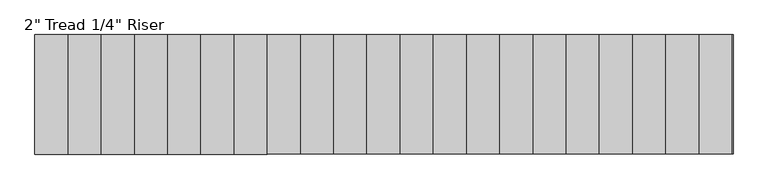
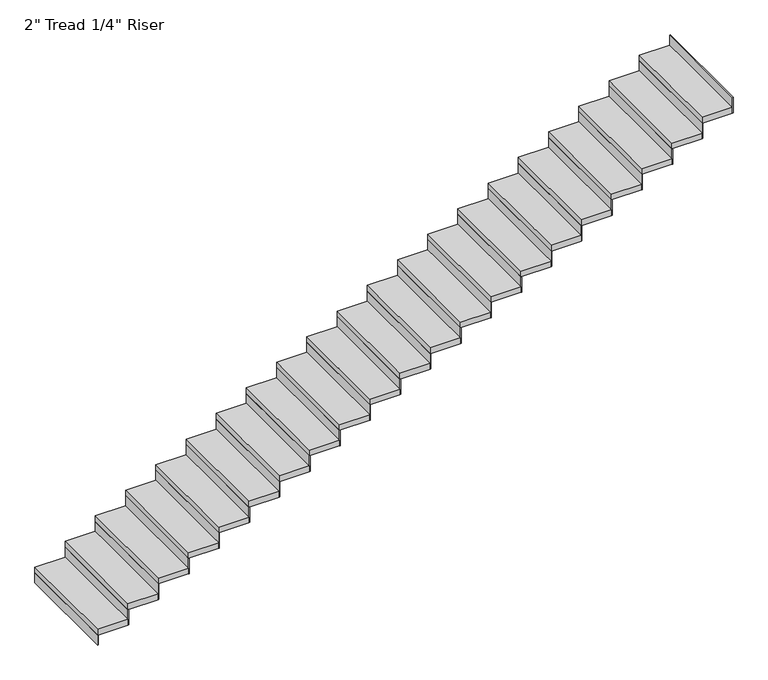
"""IFC4 building model written with IfcOpenShell, lengths in millimetres: stair flight geometry."""

from ifc_helpers import new_model, si_unit, frame, origin, origin_with_axes, place, context, project, spatial, polyline, outline, extrude, source, transform, mapped, element, save


def stair_flight_ff1bd8d3(model_context):
    return source(origin(), model_context, "Body", "SweptSolid", [
        extrude(outline(polyline([(60465.2405484, -18868.6990002), (60458.8905484, -18868.6990002), (60458.8905484, -17954.2990002), (60465.2405484, -17954.2990002), (60465.2405484, -18868.6990002)])), origin_with_axes(), (0.0, 0.0, 1.0), 87.7454545),
        extrude(outline(polyline([(60712.8905484, -17954.2990002), (60712.8905484, -18868.6990002), (60458.8905484, -18868.6990002), (60458.8905484, -17954.2990002), (60712.8905484, -17954.2990002)])), frame((0.0, 0.0, 87.7454545), z_axis=(0.0, 0.0, 1.0), x_axis=(1.0, 0.0, 0.0)), (0.0, 0.0, 1.0), 50.8),
        extrude(outline(polyline([(60719.2405484, -18868.6990002), (60712.8905484, -18868.6990002), (60712.8905484, -17954.2990002), (60719.2405484, -17954.2990002), (60719.2405484, -18868.6990002)])), frame((0.0, 0.0, 87.7454545), z_axis=(0.0, 0.0, 1.0), x_axis=(1.0, 0.0, 0.0)), (0.0, 0.0, 1.0), 138.5454545),
        extrude(outline(polyline([(60966.8905484, -17954.2990002), (60966.8905484, -18868.6990002), (60712.8905484, -18868.6990002), (60712.8905484, -17954.2990002), (60966.8905484, -17954.2990002)])), frame((0.0, 0.0, 226.2909091), z_axis=(0.0, 0.0, 1.0), x_axis=(1.0, 0.0, 0.0)), (0.0, 0.0, 1.0), 50.8),
        extrude(outline(polyline([(60973.2405484, -18868.6990002), (60966.8905484, -18868.6990002), (60966.8905484, -17954.2990002), (60973.2405484, -17954.2990002), (60973.2405484, -18868.6990002)])), frame((0.0, 0.0, 226.2909091), z_axis=(0.0, 0.0, 1.0), x_axis=(1.0, 0.0, 0.0)), (0.0, 0.0, 1.0), 138.5454545),
        extrude(outline(polyline([(61220.8905484, -17954.2990002), (61220.8905484, -18868.6990002), (60966.8905484, -18868.6990002), (60966.8905484, -17954.2990002), (61220.8905484, -17954.2990002)])), frame((0.0, 0.0, 364.8363636), z_axis=(0.0, 0.0, 1.0), x_axis=(1.0, 0.0, 0.0)), (0.0, 0.0, 1.0), 50.8),
        extrude(outline(polyline([(61227.2405484, -18868.6990002), (61220.8905484, -18868.6990002), (61220.8905484, -17954.2990002), (61227.2405484, -17954.2990002), (61227.2405484, -18868.6990002)])), frame((0.0, 0.0, 364.8363636), z_axis=(0.0, 0.0, 1.0), x_axis=(1.0, 0.0, 0.0)), (0.0, 0.0, 1.0), 138.5454545),
        extrude(outline(polyline([(61474.8905484, -17954.2990002), (61474.8905484, -18868.6990002), (61220.8905484, -18868.6990002), (61220.8905484, -17954.2990002), (61474.8905484, -17954.2990002)])), frame((0.0, 0.0, 503.3818182), z_axis=(0.0, 0.0, 1.0), x_axis=(1.0, 0.0, 0.0)), (0.0, 0.0, 1.0), 50.8),
        extrude(outline(polyline([(61481.2405484, -18868.6990002), (61474.8905484, -18868.6990002), (61474.8905484, -17954.2990002), (61481.2405484, -17954.2990002), (61481.2405484, -18868.6990002)])), frame((0.0, 0.0, 503.3818182), z_axis=(0.0, 0.0, 1.0), x_axis=(1.0, 0.0, 0.0)), (0.0, 0.0, 1.0), 138.5454545),
        extrude(outline(polyline([(61728.8905484, -17954.2990002), (61728.8905484, -18868.6990002), (61474.8905484, -18868.6990002), (61474.8905484, -17954.2990002), (61728.8905484, -17954.2990002)])), frame((0.0, 0.0, 641.9272727), z_axis=(0.0, 0.0, 1.0), x_axis=(1.0, 0.0, 0.0)), (0.0, 0.0, 1.0), 50.8),
        extrude(outline(polyline([(61735.2405484, -18868.6990002), (61728.8905484, -18868.6990002), (61728.8905484, -17954.2990002), (61735.2405484, -17954.2990002), (61735.2405484, -18868.6990002)])), frame((0.0, 0.0, 641.9272727), z_axis=(0.0, 0.0, 1.0), x_axis=(1.0, 0.0, 0.0)), (0.0, 0.0, 1.0), 138.5454545),
        extrude(outline(polyline([(61982.8905484, -17954.2990002), (61982.8905484, -18868.6990002), (61728.8905484, -18868.6990002), (61728.8905484, -17954.2990002), (61982.8905484, -17954.2990002)])), frame((0.0, 0.0, 780.4727273), z_axis=(0.0, 0.0, 1.0), x_axis=(1.0, 0.0, 0.0)), (0.0, 0.0, 1.0), 50.8),
        extrude(outline(polyline([(61989.2405484, -18868.6990002), (61982.8905484, -18868.6990002), (61982.8905484, -17954.2990002), (61989.2405484, -17954.2990002), (61989.2405484, -18868.6990002)])), frame((0.0, 0.0, 780.4727273), z_axis=(0.0, 0.0, 1.0), x_axis=(1.0, 0.0, 0.0)), (0.0, 0.0, 1.0), 138.5454545),
        extrude(outline(polyline([(62236.8905484, -17954.2990002), (62236.8905484, -18868.6990002), (61982.8905484, -18868.6990002), (61982.8905484, -17954.2990002), (62236.8905484, -17954.2990002)])), frame((0.0, 0.0, 919.0181818), z_axis=(0.0, 0.0, 1.0), x_axis=(1.0, 0.0, 0.0)), (0.0, 0.0, 1.0), 50.8),
        extrude(outline(polyline([(62243.2405484, -18868.6990002), (62236.8905484, -18868.6990002), (62236.8905484, -17954.2990002), (62243.2405484, -17954.2990002), (62243.2405484, -18868.6990002)])), frame((0.0, 0.0, 919.0181818), z_axis=(0.0, 0.0, 1.0), x_axis=(1.0, 0.0, 0.0)), (0.0, 0.0, 1.0), 138.5454545),
        extrude(outline(polyline([(62490.8905484, -17954.2990002), (62490.8905484, -18868.6990002), (62236.8905484, -18868.6990002), (62236.8905484, -17954.2990002), (62490.8905484, -17954.2990002)])), frame((0.0, 0.0, 1057.5636364), z_axis=(0.0, 0.0, 1.0), x_axis=(1.0, 0.0, 0.0)), (0.0, 0.0, 1.0), 50.8),
        extrude(outline(polyline([(62497.2405484, -18868.6990002), (62490.8905484, -18868.6990002), (62490.8905484, -17954.2990002), (62497.2405484, -17954.2990002), (62497.2405484, -18868.6990002)])), frame((0.0, 0.0, 1057.5636364), z_axis=(0.0, 0.0, 1.0), x_axis=(1.0, 0.0, 0.0)), (0.0, 0.0, 1.0), 138.5454545),
        extrude(outline(polyline([(62744.8905484, -17954.2990002), (62744.8905484, -18868.6990002), (62490.8905484, -18868.6990002), (62490.8905484, -17954.2990002), (62744.8905484, -17954.2990002)])), frame((0.0, 0.0, 1196.1090909), z_axis=(0.0, 0.0, 1.0), x_axis=(1.0, 0.0, 0.0)), (0.0, 0.0, 1.0), 50.8),
        extrude(outline(polyline([(62751.2405484, -18868.6990002), (62744.8905484, -18868.6990002), (62744.8905484, -17954.2990002), (62751.2405484, -17954.2990002), (62751.2405484, -18868.6990002)])), frame((0.0, 0.0, 1196.1090909), z_axis=(0.0, 0.0, 1.0), x_axis=(1.0, 0.0, 0.0)), (0.0, 0.0, 1.0), 138.5454545),
        extrude(outline(polyline([(62998.8905484, -17954.2990002), (62998.8905484, -18868.6990002), (62744.8905484, -18868.6990002), (62744.8905484, -17954.2990002), (62998.8905484, -17954.2990002)])), frame((0.0, 0.0, 1334.6545455), z_axis=(0.0, 0.0, 1.0), x_axis=(1.0, 0.0, 0.0)), (0.0, 0.0, 1.0), 50.8),
        extrude(outline(polyline([(63005.2405484, -18868.6990002), (62998.8905484, -18868.6990002), (62998.8905484, -17954.2990002), (63005.2405484, -17954.2990002), (63005.2405484, -18868.6990002)])), frame((0.0, 0.0, 1334.6545455), z_axis=(0.0, 0.0, 1.0), x_axis=(1.0, 0.0, 0.0)), (0.0, 0.0, 1.0), 138.5454545),
        extrude(outline(polyline([(63252.8905484, -17954.2990002), (63252.8905484, -18868.6990002), (62998.8905484, -18868.6990002), (62998.8905484, -17954.2990002), (63252.8905484, -17954.2990002)])), frame((0.0, 0.0, 1473.2), z_axis=(0.0, 0.0, 1.0), x_axis=(1.0, 0.0, 0.0)), (0.0, 0.0, 1.0), 50.8),
        extrude(outline(polyline([(63259.2405484, -18868.6990002), (63252.8905484, -18868.6990002), (63252.8905484, -17954.2990002), (63259.2405484, -17954.2990002), (63259.2405484, -18868.6990002)])), frame((0.0, 0.0, 1473.2), z_axis=(0.0, 0.0, 1.0), x_axis=(1.0, 0.0, 0.0)), (0.0, 0.0, 1.0), 138.5454545),
        extrude(outline(polyline([(63506.8905484, -17954.2990002), (63506.8905484, -18868.6990002), (63252.8905484, -18868.6990002), (63252.8905484, -17954.2990002), (63506.8905484, -17954.2990002)])), frame((0.0, 0.0, 1611.7454545), z_axis=(0.0, 0.0, 1.0), x_axis=(1.0, 0.0, 0.0)), (0.0, 0.0, 1.0), 50.8),
        extrude(outline(polyline([(63513.2405484, -18868.6990002), (63506.8905484, -18868.6990002), (63506.8905484, -17954.2990002), (63513.2405484, -17954.2990002), (63513.2405484, -18868.6990002)])), frame((0.0, 0.0, 1611.7454545), z_axis=(0.0, 0.0, 1.0), x_axis=(1.0, 0.0, 0.0)), (0.0, 0.0, 1.0), 138.5454545),
        extrude(outline(polyline([(63760.8905484, -17954.2990002), (63760.8905484, -18868.6990002), (63506.8905484, -18868.6990002), (63506.8905484, -17954.2990002), (63760.8905484, -17954.2990002)])), frame((0.0, 0.0, 1750.2909091), z_axis=(0.0, 0.0, 1.0), x_axis=(1.0, 0.0, 0.0)), (0.0, 0.0, 1.0), 50.8),
        extrude(outline(polyline([(63767.2405484, -18868.6990002), (63760.8905484, -18868.6990002), (63760.8905484, -17954.2990002), (63767.2405484, -17954.2990002), (63767.2405484, -18868.6990002)])), frame((0.0, 0.0, 1750.2909091), z_axis=(0.0, 0.0, 1.0), x_axis=(1.0, 0.0, 0.0)), (0.0, 0.0, 1.0), 138.5454545),
        extrude(outline(polyline([(64014.8905484, -17954.2990002), (64014.8905484, -18868.6990002), (63760.8905484, -18868.6990002), (63760.8905484, -17954.2990002), (64014.8905484, -17954.2990002)])), frame((0.0, 0.0, 1888.8363636), z_axis=(0.0, 0.0, 1.0), x_axis=(1.0, 0.0, 0.0)), (0.0, 0.0, 1.0), 50.8),
        extrude(outline(polyline([(64021.2405484, -18868.6990002), (64014.8905484, -18868.6990002), (64014.8905484, -17954.2990002), (64021.2405484, -17954.2990002), (64021.2405484, -18868.6990002)])), frame((0.0, 0.0, 1888.8363636), z_axis=(0.0, 0.0, 1.0), x_axis=(1.0, 0.0, 0.0)), (0.0, 0.0, 1.0), 138.5454545),
        extrude(outline(polyline([(64268.8905484, -17954.2990002), (64268.8905484, -18868.6990002), (64014.8905484, -18868.6990002), (64014.8905484, -17954.2990002), (64268.8905484, -17954.2990002)])), frame((0.0, 0.0, 2027.3818182), z_axis=(0.0, 0.0, 1.0), x_axis=(1.0, 0.0, 0.0)), (0.0, 0.0, 1.0), 50.8),
        extrude(outline(polyline([(64275.2405484, -18868.6990002), (64268.8905484, -18868.6990002), (64268.8905484, -17954.2990002), (64275.2405484, -17954.2990002), (64275.2405484, -18868.6990002)])), frame((0.0, 0.0, 2027.3818182), z_axis=(0.0, 0.0, 1.0), x_axis=(1.0, 0.0, 0.0)), (0.0, 0.0, 1.0), 138.5454545),
        extrude(outline(polyline([(64522.8905484, -17954.2990002), (64522.8905484, -18868.6990002), (64268.8905484, -18868.6990002), (64268.8905484, -17954.2990002), (64522.8905484, -17954.2990002)])), frame((0.0, 0.0, 2165.9272727), z_axis=(0.0, 0.0, 1.0), x_axis=(1.0, 0.0, 0.0)), (0.0, 0.0, 1.0), 50.8),
        extrude(outline(polyline([(64529.2405484, -18868.6990002), (64522.8905484, -18868.6990002), (64522.8905484, -17954.2990002), (64529.2405484, -17954.2990002), (64529.2405484, -18868.6990002)])), frame((0.0, 0.0, 2165.9272727), z_axis=(0.0, 0.0, 1.0), x_axis=(1.0, 0.0, 0.0)), (0.0, 0.0, 1.0), 138.5454545),
        extrude(outline(polyline([(64776.8905484, -17954.2990002), (64776.8905484, -18868.6990002), (64522.8905484, -18868.6990002), (64522.8905484, -17954.2990002), (64776.8905484, -17954.2990002)])), frame((0.0, 0.0, 2304.4727273), z_axis=(0.0, 0.0, 1.0), x_axis=(1.0, 0.0, 0.0)), (0.0, 0.0, 1.0), 50.8),
        extrude(outline(polyline([(64783.2405484, -18868.6990002), (64776.8905484, -18868.6990002), (64776.8905484, -17954.2990002), (64783.2405484, -17954.2990002), (64783.2405484, -18868.6990002)])), frame((0.0, 0.0, 2304.4727273), z_axis=(0.0, 0.0, 1.0), x_axis=(1.0, 0.0, 0.0)), (0.0, 0.0, 1.0), 138.5454545),
        extrude(outline(polyline([(65030.8905484, -17954.2990002), (65030.8905484, -18868.6990002), (64776.8905484, -18868.6990002), (64776.8905484, -17954.2990002), (65030.8905484, -17954.2990002)])), frame((0.0, 0.0, 2443.0181818), z_axis=(0.0, 0.0, 1.0), x_axis=(1.0, 0.0, 0.0)), (0.0, 0.0, 1.0), 50.8),
        extrude(outline(polyline([(65037.2405484, -18868.6990002), (65030.8905484, -18868.6990002), (65030.8905484, -17954.2990002), (65037.2405484, -17954.2990002), (65037.2405484, -18868.6990002)])), frame((0.0, 0.0, 2443.0181818), z_axis=(0.0, 0.0, 1.0), x_axis=(1.0, 0.0, 0.0)), (0.0, 0.0, 1.0), 138.5454545),
        extrude(outline(polyline([(65284.8905484, -17954.2990002), (65284.8905484, -18868.6990002), (65030.8905484, -18868.6990002), (65030.8905484, -17954.2990002), (65284.8905484, -17954.2990002)])), frame((0.0, 0.0, 2581.5636364), z_axis=(0.0, 0.0, 1.0), x_axis=(1.0, 0.0, 0.0)), (0.0, 0.0, 1.0), 50.8),
        extrude(outline(polyline([(65291.2405484, -18868.6990002), (65284.8905484, -18868.6990002), (65284.8905484, -17954.2990002), (65291.2405484, -17954.2990002), (65291.2405484, -18868.6990002)])), frame((0.0, 0.0, 2581.5636364), z_axis=(0.0, 0.0, 1.0), x_axis=(1.0, 0.0, 0.0)), (0.0, 0.0, 1.0), 138.5454545),
        extrude(outline(polyline([(65538.8905484, -17954.2990002), (65538.8905484, -18868.6990002), (65284.8905484, -18868.6990002), (65284.8905484, -17954.2990002), (65538.8905484, -17954.2990002)])), frame((0.0, 0.0, 2720.1090909), z_axis=(0.0, 0.0, 1.0), x_axis=(1.0, 0.0, 0.0)), (0.0, 0.0, 1.0), 50.8),
        extrude(outline(polyline([(65545.2405484, -18868.6990002), (65538.8905484, -18868.6990002), (65538.8905484, -17954.2990002), (65545.2405484, -17954.2990002), (65545.2405484, -18868.6990002)])), frame((0.0, 0.0, 2720.1090909), z_axis=(0.0, 0.0, 1.0), x_axis=(1.0, 0.0, 0.0)), (0.0, 0.0, 1.0), 138.5454545),
        extrude(outline(polyline([(65799.2405484, -18868.6990002), (65792.8905484, -18868.6990002), (65792.8905484, -17954.2990002), (65799.2405484, -17954.2990002), (65799.2405484, -18868.6990002)])), frame((0.0, 0.0, 2858.6545455), z_axis=(0.0, 0.0, 1.0), x_axis=(1.0, 0.0, 0.0)), (0.0, 0.0, 1.0), 138.5454545),
        extrude(outline(polyline([(65792.8905484, -17954.2990002), (65792.8905484, -18868.6990002), (65538.8905484, -18868.6990002), (65538.8905484, -17954.2990002), (65792.8905484, -17954.2990002)])), frame((0.0, 0.0, 2858.6545455), z_axis=(0.0, 0.0, 1.0), x_axis=(1.0, 0.0, 0.0)), (0.0, 0.0, 1.0), 50.8),
    ])


if __name__ == "__main__":
    model = new_model("IFC4")
    model_context = context("Model", 3, world=origin())
    ifc_project = project(units=[si_unit("LENGTHUNIT", "METRE", prefix="MILLI")], contexts=[model_context])
    site = spatial("IfcSite", under=ifc_project)
    building = spatial("IfcBuilding", under=site)
    placement = place(None, origin())
    stair_flight_shape = stair_flight_ff1bd8d3(model_context)
    element("IfcStairFlight", 1, ObjectType="2\" Tread 1/4\" Riser", at=placement, inside=building, context=model_context, shape_type="MappedRepresentation", body=[
        mapped(stair_flight_shape, transform((0.0, 0.0, 0.0), x_axis=(1.0, 0.0, 0.0), y_axis=(0.0, 1.0, 0.0), z_axis=(0.0, 0.0, 1.0))),
    ])
    save(model, "model.ifc")
